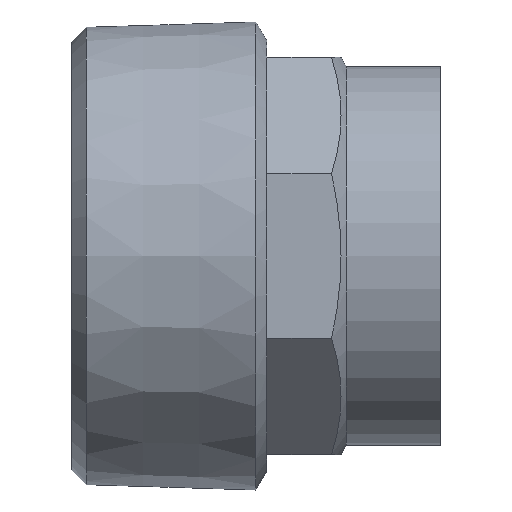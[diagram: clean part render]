
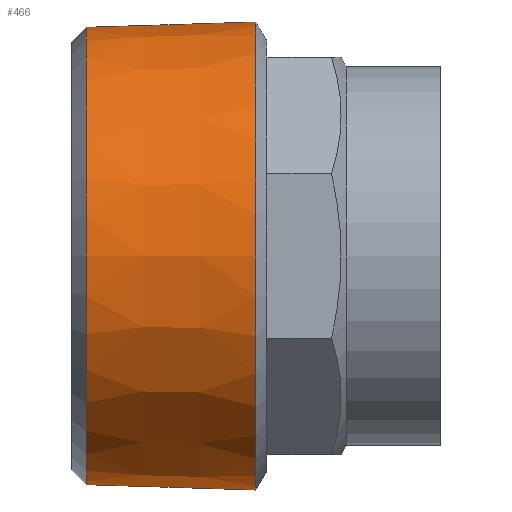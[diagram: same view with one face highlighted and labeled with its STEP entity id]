
A CAD part, front view. The second image highlights one B-rep face of the part: STEP entity #466.
In plain terms, the highlighted conical face has half-angle 1.79 degrees and reference radius 23.802 mm.
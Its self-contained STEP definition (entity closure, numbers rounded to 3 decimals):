
#415=CARTESIAN_POINT('',(1.499,23.552,0.));
#416=VERTEX_POINT('',#415);
#417=CARTESIAN_POINT('',(1.499,0.0,0.));
#418=DIRECTION('',(-1.0,0.0,0.0));
#419=DIRECTION('',(0.0,-1.0,0.0));
#420=AXIS2_PLACEMENT_3D('',#417,#418,#419);
#421=CIRCLE('',#420,23.552);
#422=EDGE_CURVE('',#416,#416,#421,.T.);
#447=CARTESIAN_POINT('',(9.5,0.0,0.0));
#448=DIRECTION('',(1.0,0.0,0.0));
#449=DIRECTION('',(0.0,1.0,0.0));
#450=AXIS2_PLACEMENT_3D('',#447,#448,#449);
#451=CONICAL_SURFACE('',#450,23.802,1.79);
#452=CARTESIAN_POINT('',(19.0,24.099,0.0));
#453=VERTEX_POINT('',#452);
#454=CARTESIAN_POINT('',(19.0,0.0,0.0));
#455=DIRECTION('',(1.0,0.0,0.0));
#456=DIRECTION('',(0.0,1.0,0.0));
#457=AXIS2_PLACEMENT_3D('',#454,#455,#456);
#458=CIRCLE('',#457,24.099);
#459=EDGE_CURVE('',#453,#453,#458,.T.);
#460=ORIENTED_EDGE('',*,*,#459,.F.);
#461=EDGE_LOOP('',(#460));
#462=FACE_OUTER_BOUND('',#461,.T.);
#463=ORIENTED_EDGE('',*,*,#422,.F.);
#464=EDGE_LOOP('',(#463));
#465=FACE_BOUND('',#464,.T.);
#466=ADVANCED_FACE('',(#462,#465),#451,.T.);
